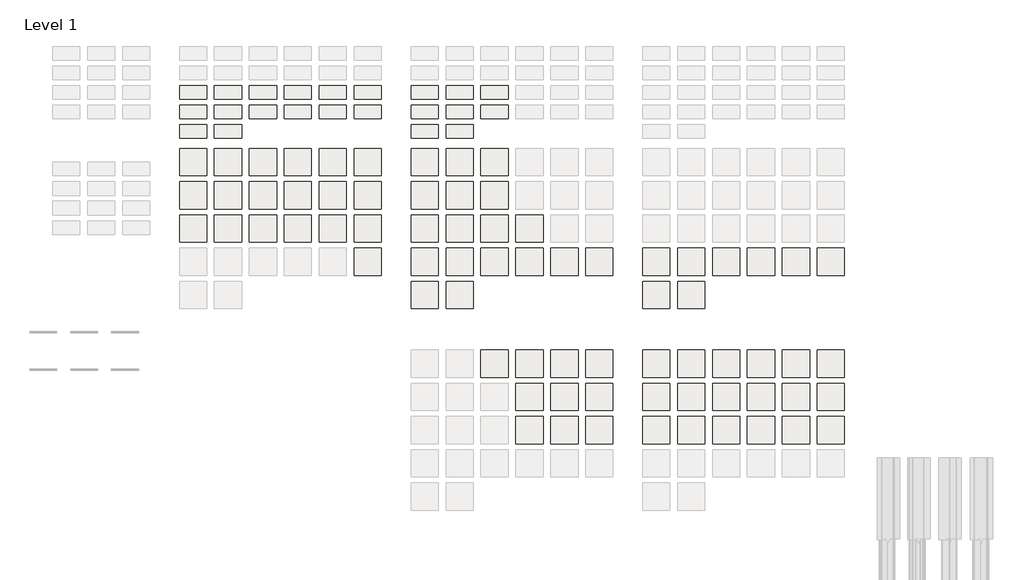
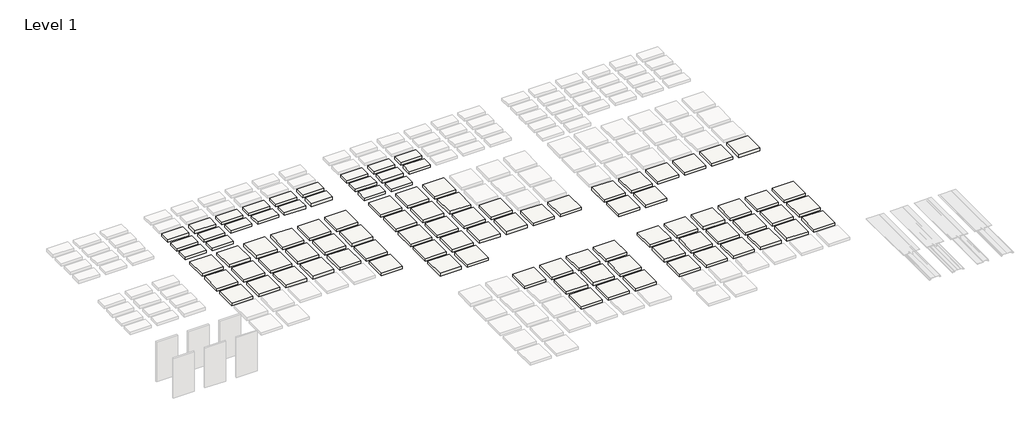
# One storey, part 2 of 3: 95 slabs.
"""IFC4 building model written with IfcOpenShell, lengths in millimetres."""

from ifc_helpers import new_model, si_unit, frame, origin, place, context, project, spatial, polyline, outline, extrude, element, save

model = new_model("IFC4")

# Units and contexts
model_context = context("Model", 3, world=origin())
ifc_project = project(units=[si_unit("LENGTHUNIT", "METRE", prefix="MILLI")], contexts=[model_context])

# Site, building, storey
site = spatial("IfcSite", under=ifc_project)
building = spatial("IfcBuilding", under=site)
storey = spatial("IfcBuildingStorey", under=building, Name="Level 1", Elevation=19.05)

# Slabs
placement = place(None, origin())
element("IfcSlab", 1, ObjectType="AEP Span Material Sample", at=placement, inside=storey, context=model_context, shape_type="SweptSolid", body=[
    extrude(outline(polyline([(857.9412041, 7451.3021167), (248.3412041, 7451.3021167), (248.3412041, 7756.1021167), (857.9412041, 7756.1021167), (857.9412041, 7451.3021167)])), frame((0.0, 0.0, -60.325), z_axis=(0.0, 0.0, 1.0), x_axis=(1.0, 0.0, 0.0)), (0.0, 0.0, 1.0), 79.375),
])
element("IfcSlab", 2, ObjectType="AEP Span Material Sample", at=placement, inside=storey, context=model_context, shape_type="SweptSolid", body=[
    extrude(outline(polyline([(1638.9912041, 7451.3021167), (1029.3912041, 7451.3021167), (1029.3912041, 7756.1021167), (1638.9912041, 7756.1021167), (1638.9912041, 7451.3021167)])), frame((0.0, 0.0, -60.325), z_axis=(0.0, 0.0, 1.0), x_axis=(1.0, 0.0, 0.0)), (0.0, 0.0, 1.0), 79.375),
])
element("IfcSlab", 3, ObjectType="AEP Span Material Sample", at=placement, inside=storey, context=model_context, shape_type="SweptSolid", body=[
    extrude(outline(polyline([(2420.0412041, 7451.3021167), (1810.4412041, 7451.3021167), (1810.4412041, 7756.1021167), (2420.0412041, 7756.1021167), (2420.0412041, 7451.3021167)])), frame((0.0, 0.0, -60.325), z_axis=(0.0, 0.0, 1.0), x_axis=(1.0, 0.0, 0.0)), (0.0, 0.0, 1.0), 79.375),
])
element("IfcSlab", 4, ObjectType="AEP Span Material Sample", at=placement, inside=storey, context=model_context, shape_type="SweptSolid", body=[
    extrude(outline(polyline([(3201.0912041, 7451.3021167), (2591.4912041, 7451.3021167), (2591.4912041, 7756.1021167), (3201.0912041, 7756.1021167), (3201.0912041, 7451.3021167)])), frame((0.0, 0.0, -60.325), z_axis=(0.0, 0.0, 1.0), x_axis=(1.0, 0.0, 0.0)), (0.0, 0.0, 1.0), 79.375),
])
element("IfcSlab", 5, ObjectType="AEP Span Material Sample", at=placement, inside=storey, context=model_context, shape_type="SweptSolid", body=[
    extrude(outline(polyline([(3982.1412041, 7451.3021167), (3372.5412041, 7451.3021167), (3372.5412041, 7756.1021167), (3982.1412041, 7756.1021167), (3982.1412041, 7451.3021167)])), frame((0.0, 0.0, -60.325), z_axis=(0.0, 0.0, 1.0), x_axis=(1.0, 0.0, 0.0)), (0.0, 0.0, 1.0), 79.375),
])
element("IfcSlab", 6, ObjectType="AEP Span Material Sample", at=placement, inside=storey, context=model_context, shape_type="SweptSolid", body=[
    extrude(outline(polyline([(4763.1912041, 7451.3021167), (4153.5912041, 7451.3021167), (4153.5912041, 7756.1021167), (4763.1912041, 7756.1021167), (4763.1912041, 7451.3021167)])), frame((0.0, 0.0, -60.325), z_axis=(0.0, 0.0, 1.0), x_axis=(1.0, 0.0, 0.0)), (0.0, 0.0, 1.0), 79.375),
])
element("IfcSlab", 7, ObjectType="AEP Span Material Sample", at=placement, inside=storey, context=model_context, shape_type="SweptSolid", body=[
    extrude(outline(polyline([(857.9412041, 7013.1521167), (248.3412041, 7013.1521167), (248.3412041, 7317.9521167), (857.9412041, 7317.9521167), (857.9412041, 7013.1521167)])), frame((0.0, 0.0, -60.325), z_axis=(0.0, 0.0, 1.0), x_axis=(1.0, 0.0, 0.0)), (0.0, 0.0, 1.0), 79.375),
])
element("IfcSlab", 8, ObjectType="AEP Span Material Sample", at=placement, inside=storey, context=model_context, shape_type="SweptSolid", body=[
    extrude(outline(polyline([(1638.9912041, 7013.1521167), (1029.3912041, 7013.1521167), (1029.3912041, 7317.9521167), (1638.9912041, 7317.9521167), (1638.9912041, 7013.1521167)])), frame((0.0, 0.0, -60.325), z_axis=(0.0, 0.0, 1.0), x_axis=(1.0, 0.0, 0.0)), (0.0, 0.0, 1.0), 79.375),
])
element("IfcSlab", 9, ObjectType="AEP Span Material Sample", at=placement, inside=storey, context=model_context, shape_type="SweptSolid", body=[
    extrude(outline(polyline([(2420.0412041, 7013.1521167), (1810.4412041, 7013.1521167), (1810.4412041, 7317.9521167), (2420.0412041, 7317.9521167), (2420.0412041, 7013.1521167)])), frame((0.0, 0.0, -60.325), z_axis=(0.0, 0.0, 1.0), x_axis=(1.0, 0.0, 0.0)), (0.0, 0.0, 1.0), 79.375),
])
element("IfcSlab", 10, ObjectType="AEP Span Material Sample", at=placement, inside=storey, context=model_context, shape_type="SweptSolid", body=[
    extrude(outline(polyline([(3201.0912041, 7013.1521167), (2591.4912041, 7013.1521167), (2591.4912041, 7317.9521167), (3201.0912041, 7317.9521167), (3201.0912041, 7013.1521167)])), frame((0.0, 0.0, -60.325), z_axis=(0.0, 0.0, 1.0), x_axis=(1.0, 0.0, 0.0)), (0.0, 0.0, 1.0), 79.375),
])
element("IfcSlab", 11, ObjectType="AEP Span Material Sample", at=placement, inside=storey, context=model_context, shape_type="SweptSolid", body=[
    extrude(outline(polyline([(3982.1412041, 7013.1521167), (3372.5412041, 7013.1521167), (3372.5412041, 7317.9521167), (3982.1412041, 7317.9521167), (3982.1412041, 7013.1521167)])), frame((0.0, 0.0, -60.325), z_axis=(0.0, 0.0, 1.0), x_axis=(1.0, 0.0, 0.0)), (0.0, 0.0, 1.0), 79.375),
])
element("IfcSlab", 12, ObjectType="AEP Span Material Sample", at=placement, inside=storey, context=model_context, shape_type="SweptSolid", body=[
    extrude(outline(polyline([(4763.1912041, 7013.1521167), (4153.5912041, 7013.1521167), (4153.5912041, 7317.9521167), (4763.1912041, 7317.9521167), (4763.1912041, 7013.1521167)])), frame((0.0, 0.0, -60.325), z_axis=(0.0, 0.0, 1.0), x_axis=(1.0, 0.0, 0.0)), (0.0, 0.0, 1.0), 79.375),
])
element("IfcSlab", 13, ObjectType="AEP Span Material Sample", at=placement, inside=storey, context=model_context, shape_type="SweptSolid", body=[
    extrude(outline(polyline([(857.9412041, 6575.0021167), (248.3412041, 6575.0021167), (248.3412041, 6879.8021167), (857.9412041, 6879.8021167), (857.9412041, 6575.0021167)])), frame((0.0, 0.0, -60.325), z_axis=(0.0, 0.0, 1.0), x_axis=(1.0, 0.0, 0.0)), (0.0, 0.0, 1.0), 79.375),
])
element("IfcSlab", 14, ObjectType="AEP Span Material Sample", at=placement, inside=storey, context=model_context, shape_type="SweptSolid", body=[
    extrude(outline(polyline([(1638.9912041, 6575.0021167), (1029.3912041, 6575.0021167), (1029.3912041, 6879.8021167), (1638.9912041, 6879.8021167), (1638.9912041, 6575.0021167)])), frame((0.0, 0.0, -60.325), z_axis=(0.0, 0.0, 1.0), x_axis=(1.0, 0.0, 0.0)), (0.0, 0.0, 1.0), 79.375),
])
element("IfcSlab", 15, ObjectType="AEP Span Material Sample", at=placement, inside=storey, context=model_context, shape_type="SweptSolid", body=[
    extrude(outline(polyline([(6040.5423483, 7451.3021167), (5430.9423483, 7451.3021167), (5430.9423483, 7756.1021167), (6040.5423483, 7756.1021167), (6040.5423483, 7451.3021167)])), frame((0.0, 0.0, -60.325), z_axis=(0.0, 0.0, 1.0), x_axis=(1.0, 0.0, 0.0)), (0.0, 0.0, 1.0), 79.375),
])
element("IfcSlab", 16, ObjectType="AEP Span Material Sample", at=placement, inside=storey, context=model_context, shape_type="SweptSolid", body=[
    extrude(outline(polyline([(6821.5923483, 7451.3021167), (6211.9923483, 7451.3021167), (6211.9923483, 7756.1021167), (6821.5923483, 7756.1021167), (6821.5923483, 7451.3021167)])), frame((0.0, 0.0, -60.325), z_axis=(0.0, 0.0, 1.0), x_axis=(1.0, 0.0, 0.0)), (0.0, 0.0, 1.0), 79.375),
])
element("IfcSlab", 17, ObjectType="AEP Span Material Sample", at=placement, inside=storey, context=model_context, shape_type="SweptSolid", body=[
    extrude(outline(polyline([(7602.6423483, 7451.3021167), (6993.0423483, 7451.3021167), (6993.0423483, 7756.1021167), (7602.6423483, 7756.1021167), (7602.6423483, 7451.3021167)])), frame((0.0, 0.0, -60.325), z_axis=(0.0, 0.0, 1.0), x_axis=(1.0, 0.0, 0.0)), (0.0, 0.0, 1.0), 79.375),
])
element("IfcSlab", 18, ObjectType="AEP Span Material Sample", at=placement, inside=storey, context=model_context, shape_type="SweptSolid", body=[
    extrude(outline(polyline([(6040.5423483, 7013.1521167), (5430.9423483, 7013.1521167), (5430.9423483, 7317.9521167), (6040.5423483, 7317.9521167), (6040.5423483, 7013.1521167)])), frame((0.0, 0.0, -60.325), z_axis=(0.0, 0.0, 1.0), x_axis=(1.0, 0.0, 0.0)), (0.0, 0.0, 1.0), 79.375),
])
element("IfcSlab", 19, ObjectType="AEP Span Material Sample", at=placement, inside=storey, context=model_context, shape_type="SweptSolid", body=[
    extrude(outline(polyline([(6821.5923483, 7013.1521167), (6211.9923483, 7013.1521167), (6211.9923483, 7317.9521167), (6821.5923483, 7317.9521167), (6821.5923483, 7013.1521167)])), frame((0.0, 0.0, -60.325), z_axis=(0.0, 0.0, 1.0), x_axis=(1.0, 0.0, 0.0)), (0.0, 0.0, 1.0), 79.375),
])
element("IfcSlab", 20, ObjectType="AEP Span Material Sample", at=placement, inside=storey, context=model_context, shape_type="SweptSolid", body=[
    extrude(outline(polyline([(7602.6423483, 7013.1521167), (6993.0423483, 7013.1521167), (6993.0423483, 7317.9521167), (7602.6423483, 7317.9521167), (7602.6423483, 7013.1521167)])), frame((0.0, 0.0, -60.325), z_axis=(0.0, 0.0, 1.0), x_axis=(1.0, 0.0, 0.0)), (0.0, 0.0, 1.0), 79.375),
])
element("IfcSlab", 21, ObjectType="AEP Span Material Sample", at=placement, inside=storey, context=model_context, shape_type="SweptSolid", body=[
    extrude(outline(polyline([(6040.5423483, 6575.0021167), (5430.9423483, 6575.0021167), (5430.9423483, 6879.8021167), (6040.5423483, 6879.8021167), (6040.5423483, 6575.0021167)])), frame((0.0, 0.0, -60.325), z_axis=(0.0, 0.0, 1.0), x_axis=(1.0, 0.0, 0.0)), (0.0, 0.0, 1.0), 79.375),
])
element("IfcSlab", 22, ObjectType="AEP Span Material Sample", at=placement, inside=storey, context=model_context, shape_type="SweptSolid", body=[
    extrude(outline(polyline([(6821.5923483, 6575.0021167), (6211.9923483, 6575.0021167), (6211.9923483, 6879.8021167), (6821.5923483, 6879.8021167), (6821.5923483, 6575.0021167)])), frame((0.0, 0.0, -60.325), z_axis=(0.0, 0.0, 1.0), x_axis=(1.0, 0.0, 0.0)), (0.0, 0.0, 1.0), 79.375),
])
element("IfcSlab", 23, ObjectType="AEP Span Material Sample", at=placement, inside=storey, context=model_context, shape_type="SweptSolid", body=[
    extrude(outline(polyline([(857.9412041, 5736.8021167), (248.3412041, 5736.8021167), (248.3412041, 6346.4021167), (857.9412041, 6346.4021167), (857.9412041, 5736.8021167)])), frame((0.0, 0.0, -60.325), z_axis=(0.0, 0.0, 1.0), x_axis=(1.0, 0.0, 0.0)), (0.0, 0.0, 1.0), 79.375),
])
element("IfcSlab", 24, ObjectType="AEP Span Material Sample", at=placement, inside=storey, context=model_context, shape_type="SweptSolid", body=[
    extrude(outline(polyline([(1638.9912041, 5736.8021167), (1029.3912041, 5736.8021167), (1029.3912041, 6346.4021167), (1638.9912041, 6346.4021167), (1638.9912041, 5736.8021167)])), frame((0.0, 0.0, -60.325), z_axis=(0.0, 0.0, 1.0), x_axis=(1.0, 0.0, 0.0)), (0.0, 0.0, 1.0), 79.375),
])
element("IfcSlab", 25, ObjectType="AEP Span Material Sample", at=placement, inside=storey, context=model_context, shape_type="SweptSolid", body=[
    extrude(outline(polyline([(2420.0412041, 5736.8021167), (1810.4412041, 5736.8021167), (1810.4412041, 6346.4021167), (2420.0412041, 6346.4021167), (2420.0412041, 5736.8021167)])), frame((0.0, 0.0, -60.325), z_axis=(0.0, 0.0, 1.0), x_axis=(1.0, 0.0, 0.0)), (0.0, 0.0, 1.0), 79.375),
])
element("IfcSlab", 26, ObjectType="AEP Span Material Sample", at=placement, inside=storey, context=model_context, shape_type="SweptSolid", body=[
    extrude(outline(polyline([(3201.0912041, 5736.8021167), (2591.4912041, 5736.8021167), (2591.4912041, 6346.4021167), (3201.0912041, 6346.4021167), (3201.0912041, 5736.8021167)])), frame((0.0, 0.0, -60.325), z_axis=(0.0, 0.0, 1.0), x_axis=(1.0, 0.0, 0.0)), (0.0, 0.0, 1.0), 79.375),
])
element("IfcSlab", 27, ObjectType="AEP Span Material Sample", at=placement, inside=storey, context=model_context, shape_type="SweptSolid", body=[
    extrude(outline(polyline([(3982.1412041, 5736.8021167), (3372.5412041, 5736.8021167), (3372.5412041, 6346.4021167), (3982.1412041, 6346.4021167), (3982.1412041, 5736.8021167)])), frame((0.0, 0.0, -60.325), z_axis=(0.0, 0.0, 1.0), x_axis=(1.0, 0.0, 0.0)), (0.0, 0.0, 1.0), 79.375),
])
element("IfcSlab", 28, ObjectType="AEP Span Material Sample", at=placement, inside=storey, context=model_context, shape_type="SweptSolid", body=[
    extrude(outline(polyline([(4763.1912041, 5736.8021167), (4153.5912041, 5736.8021167), (4153.5912041, 6346.4021167), (4763.1912041, 6346.4021167), (4763.1912041, 5736.8021167)])), frame((0.0, 0.0, -60.325), z_axis=(0.0, 0.0, 1.0), x_axis=(1.0, 0.0, 0.0)), (0.0, 0.0, 1.0), 79.375),
])
element("IfcSlab", 29, ObjectType="AEP Span Material Sample", at=placement, inside=storey, context=model_context, shape_type="SweptSolid", body=[
    extrude(outline(polyline([(857.9412041, 4993.8521167), (248.3412041, 4993.8521167), (248.3412041, 5603.4521167), (857.9412041, 5603.4521167), (857.9412041, 4993.8521167)])), frame((0.0, 0.0, -60.325), z_axis=(0.0, 0.0, 1.0), x_axis=(1.0, 0.0, 0.0)), (0.0, 0.0, 1.0), 79.375),
])
element("IfcSlab", 30, ObjectType="AEP Span Material Sample", at=placement, inside=storey, context=model_context, shape_type="SweptSolid", body=[
    extrude(outline(polyline([(1638.9912041, 4993.8521167), (1029.3912041, 4993.8521167), (1029.3912041, 5603.4521167), (1638.9912041, 5603.4521167), (1638.9912041, 4993.8521167)])), frame((0.0, 0.0, -60.325), z_axis=(0.0, 0.0, 1.0), x_axis=(1.0, 0.0, 0.0)), (0.0, 0.0, 1.0), 79.375),
])
element("IfcSlab", 31, ObjectType="AEP Span Material Sample", at=placement, inside=storey, context=model_context, shape_type="SweptSolid", body=[
    extrude(outline(polyline([(2420.0412041, 4993.8521167), (1810.4412041, 4993.8521167), (1810.4412041, 5603.4521167), (2420.0412041, 5603.4521167), (2420.0412041, 4993.8521167)])), frame((0.0, 0.0, -60.325), z_axis=(0.0, 0.0, 1.0), x_axis=(1.0, 0.0, 0.0)), (0.0, 0.0, 1.0), 79.375),
])
element("IfcSlab", 32, ObjectType="AEP Span Material Sample", at=placement, inside=storey, context=model_context, shape_type="SweptSolid", body=[
    extrude(outline(polyline([(3201.0912041, 4993.8521167), (2591.4912041, 4993.8521167), (2591.4912041, 5603.4521167), (3201.0912041, 5603.4521167), (3201.0912041, 4993.8521167)])), frame((0.0, 0.0, -60.325), z_axis=(0.0, 0.0, 1.0), x_axis=(1.0, 0.0, 0.0)), (0.0, 0.0, 1.0), 79.375),
])
element("IfcSlab", 33, ObjectType="AEP Span Material Sample", at=placement, inside=storey, context=model_context, shape_type="SweptSolid", body=[
    extrude(outline(polyline([(3982.1412041, 4993.8521167), (3372.5412041, 4993.8521167), (3372.5412041, 5603.4521167), (3982.1412041, 5603.4521167), (3982.1412041, 4993.8521167)])), frame((0.0, 0.0, -60.325), z_axis=(0.0, 0.0, 1.0), x_axis=(1.0, 0.0, 0.0)), (0.0, 0.0, 1.0), 79.375),
])
element("IfcSlab", 34, ObjectType="AEP Span Material Sample", at=placement, inside=storey, context=model_context, shape_type="SweptSolid", body=[
    extrude(outline(polyline([(4763.1912041, 4993.8521167), (4153.5912041, 4993.8521167), (4153.5912041, 5603.4521167), (4763.1912041, 5603.4521167), (4763.1912041, 4993.8521167)])), frame((0.0, 0.0, -60.325), z_axis=(0.0, 0.0, 1.0), x_axis=(1.0, 0.0, 0.0)), (0.0, 0.0, 1.0), 79.375),
])
element("IfcSlab", 35, ObjectType="AEP Span Material Sample", at=placement, inside=storey, context=model_context, shape_type="SweptSolid", body=[
    extrude(outline(polyline([(857.9412041, 4250.9021167), (248.3412041, 4250.9021167), (248.3412041, 4860.5021167), (857.9412041, 4860.5021167), (857.9412041, 4250.9021167)])), frame((0.0, 0.0, -60.325), z_axis=(0.0, 0.0, 1.0), x_axis=(1.0, 0.0, 0.0)), (0.0, 0.0, 1.0), 79.375),
])
element("IfcSlab", 36, ObjectType="AEP Span Material Sample", at=placement, inside=storey, context=model_context, shape_type="SweptSolid", body=[
    extrude(outline(polyline([(1638.9912041, 4250.9021167), (1029.3912041, 4250.9021167), (1029.3912041, 4860.5021167), (1638.9912041, 4860.5021167), (1638.9912041, 4250.9021167)])), frame((0.0, 0.0, -60.325), z_axis=(0.0, 0.0, 1.0), x_axis=(1.0, 0.0, 0.0)), (0.0, 0.0, 1.0), 79.375),
])
element("IfcSlab", 37, ObjectType="AEP Span Material Sample", at=placement, inside=storey, context=model_context, shape_type="SweptSolid", body=[
    extrude(outline(polyline([(2420.0412041, 4250.9021167), (1810.4412041, 4250.9021167), (1810.4412041, 4860.5021167), (2420.0412041, 4860.5021167), (2420.0412041, 4250.9021167)])), frame((0.0, 0.0, -60.325), z_axis=(0.0, 0.0, 1.0), x_axis=(1.0, 0.0, 0.0)), (0.0, 0.0, 1.0), 79.375),
])
element("IfcSlab", 38, ObjectType="AEP Span Material Sample", at=placement, inside=storey, context=model_context, shape_type="SweptSolid", body=[
    extrude(outline(polyline([(3201.0912041, 4250.9021167), (2591.4912041, 4250.9021167), (2591.4912041, 4860.5021167), (3201.0912041, 4860.5021167), (3201.0912041, 4250.9021167)])), frame((0.0, 0.0, -60.325), z_axis=(0.0, 0.0, 1.0), x_axis=(1.0, 0.0, 0.0)), (0.0, 0.0, 1.0), 79.375),
])
element("IfcSlab", 39, ObjectType="AEP Span Material Sample", at=placement, inside=storey, context=model_context, shape_type="SweptSolid", body=[
    extrude(outline(polyline([(3982.1412041, 4250.9021167), (3372.5412041, 4250.9021167), (3372.5412041, 4860.5021167), (3982.1412041, 4860.5021167), (3982.1412041, 4250.9021167)])), frame((0.0, 0.0, -60.325), z_axis=(0.0, 0.0, 1.0), x_axis=(1.0, 0.0, 0.0)), (0.0, 0.0, 1.0), 79.375),
])
element("IfcSlab", 40, ObjectType="AEP Span Material Sample", at=placement, inside=storey, context=model_context, shape_type="SweptSolid", body=[
    extrude(outline(polyline([(4763.1912041, 4250.9021167), (4153.5912041, 4250.9021167), (4153.5912041, 4860.5021167), (4763.1912041, 4860.5021167), (4763.1912041, 4250.9021167)])), frame((0.0, 0.0, -60.325), z_axis=(0.0, 0.0, 1.0), x_axis=(1.0, 0.0, 0.0)), (0.0, 0.0, 1.0), 79.375),
])
element("IfcSlab", 41, ObjectType="AEP Span Material Sample", at=placement, inside=storey, context=model_context, shape_type="SweptSolid", body=[
    extrude(outline(polyline([(4763.1912041, 3507.9521167), (4153.5912041, 3507.9521167), (4153.5912041, 4117.5521167), (4763.1912041, 4117.5521167), (4763.1912041, 3507.9521167)])), frame((0.0, 0.0, -60.325), z_axis=(0.0, 0.0, 1.0), x_axis=(1.0, 0.0, 0.0)), (0.0, 0.0, 1.0), 79.375),
])
element("IfcSlab", 42, ObjectType="AEP Span Material Sample", at=placement, inside=storey, context=model_context, shape_type="SweptSolid", body=[
    extrude(outline(polyline([(6040.5423483, 5736.8021167), (5430.9423483, 5736.8021167), (5430.9423483, 6346.4021167), (6040.5423483, 6346.4021167), (6040.5423483, 5736.8021167)])), frame((0.0, 0.0, -60.325), z_axis=(0.0, 0.0, 1.0), x_axis=(1.0, 0.0, 0.0)), (0.0, 0.0, 1.0), 79.375),
])
element("IfcSlab", 43, ObjectType="AEP Span Material Sample", at=placement, inside=storey, context=model_context, shape_type="SweptSolid", body=[
    extrude(outline(polyline([(6821.5923483, 5736.8021167), (6211.9923483, 5736.8021167), (6211.9923483, 6346.4021167), (6821.5923483, 6346.4021167), (6821.5923483, 5736.8021167)])), frame((0.0, 0.0, -60.325), z_axis=(0.0, 0.0, 1.0), x_axis=(1.0, 0.0, 0.0)), (0.0, 0.0, 1.0), 79.375),
])
element("IfcSlab", 44, ObjectType="AEP Span Material Sample", at=placement, inside=storey, context=model_context, shape_type="SweptSolid", body=[
    extrude(outline(polyline([(7602.6423483, 5736.8021167), (6993.0423483, 5736.8021167), (6993.0423483, 6346.4021167), (7602.6423483, 6346.4021167), (7602.6423483, 5736.8021167)])), frame((0.0, 0.0, -60.325), z_axis=(0.0, 0.0, 1.0), x_axis=(1.0, 0.0, 0.0)), (0.0, 0.0, 1.0), 79.375),
])
element("IfcSlab", 45, ObjectType="AEP Span Material Sample", at=placement, inside=storey, context=model_context, shape_type="SweptSolid", body=[
    extrude(outline(polyline([(6040.5423483, 4993.8521167), (5430.9423483, 4993.8521167), (5430.9423483, 5603.4521167), (6040.5423483, 5603.4521167), (6040.5423483, 4993.8521167)])), frame((0.0, 0.0, -60.325), z_axis=(0.0, 0.0, 1.0), x_axis=(1.0, 0.0, 0.0)), (0.0, 0.0, 1.0), 79.375),
])
element("IfcSlab", 46, ObjectType="AEP Span Material Sample", at=placement, inside=storey, context=model_context, shape_type="SweptSolid", body=[
    extrude(outline(polyline([(6821.5923483, 4993.8521167), (6211.9923483, 4993.8521167), (6211.9923483, 5603.4521167), (6821.5923483, 5603.4521167), (6821.5923483, 4993.8521167)])), frame((0.0, 0.0, -60.325), z_axis=(0.0, 0.0, 1.0), x_axis=(1.0, 0.0, 0.0)), (0.0, 0.0, 1.0), 79.375),
])
element("IfcSlab", 47, ObjectType="AEP Span Material Sample", at=placement, inside=storey, context=model_context, shape_type="SweptSolid", body=[
    extrude(outline(polyline([(7602.6423483, 4993.8521167), (6993.0423483, 4993.8521167), (6993.0423483, 5603.4521167), (7602.6423483, 5603.4521167), (7602.6423483, 4993.8521167)])), frame((0.0, 0.0, -60.325), z_axis=(0.0, 0.0, 1.0), x_axis=(1.0, 0.0, 0.0)), (0.0, 0.0, 1.0), 79.375),
])
element("IfcSlab", 48, ObjectType="AEP Span Material Sample", at=placement, inside=storey, context=model_context, shape_type="SweptSolid", body=[
    extrude(outline(polyline([(6040.5423483, 4250.9021167), (5430.9423483, 4250.9021167), (5430.9423483, 4860.5021167), (6040.5423483, 4860.5021167), (6040.5423483, 4250.9021167)])), frame((0.0, 0.0, -60.325), z_axis=(0.0, 0.0, 1.0), x_axis=(1.0, 0.0, 0.0)), (0.0, 0.0, 1.0), 79.375),
])
element("IfcSlab", 49, ObjectType="AEP Span Material Sample", at=placement, inside=storey, context=model_context, shape_type="SweptSolid", body=[
    extrude(outline(polyline([(6821.5923483, 4250.9021167), (6211.9923483, 4250.9021167), (6211.9923483, 4860.5021167), (6821.5923483, 4860.5021167), (6821.5923483, 4250.9021167)])), frame((0.0, 0.0, -60.325), z_axis=(0.0, 0.0, 1.0), x_axis=(1.0, 0.0, 0.0)), (0.0, 0.0, 1.0), 79.375),
])
element("IfcSlab", 50, ObjectType="AEP Span Material Sample", at=placement, inside=storey, context=model_context, shape_type="SweptSolid", body=[
    extrude(outline(polyline([(7602.6423483, 4250.9021167), (6993.0423483, 4250.9021167), (6993.0423483, 4860.5021167), (7602.6423483, 4860.5021167), (7602.6423483, 4250.9021167)])), frame((0.0, 0.0, -60.325), z_axis=(0.0, 0.0, 1.0), x_axis=(1.0, 0.0, 0.0)), (0.0, 0.0, 1.0), 79.375),
])
element("IfcSlab", 51, ObjectType="AEP Span Material Sample", at=placement, inside=storey, context=model_context, shape_type="SweptSolid", body=[
    extrude(outline(polyline([(8383.6923483, 4250.9021167), (7774.0923483, 4250.9021167), (7774.0923483, 4860.5021167), (8383.6923483, 4860.5021167), (8383.6923483, 4250.9021167)])), frame((0.0, 0.0, -60.325), z_axis=(0.0, 0.0, 1.0), x_axis=(1.0, 0.0, 0.0)), (0.0, 0.0, 1.0), 79.375),
])
element("IfcSlab", 52, ObjectType="AEP Span Material Sample", at=placement, inside=storey, context=model_context, shape_type="SweptSolid", body=[
    extrude(outline(polyline([(6040.5423483, 3507.9521167), (5430.9423483, 3507.9521167), (5430.9423483, 4117.5521167), (6040.5423483, 4117.5521167), (6040.5423483, 3507.9521167)])), frame((0.0, 0.0, -60.325), z_axis=(0.0, 0.0, 1.0), x_axis=(1.0, 0.0, 0.0)), (0.0, 0.0, 1.0), 79.375),
])
element("IfcSlab", 53, ObjectType="AEP Span Material Sample", at=placement, inside=storey, context=model_context, shape_type="SweptSolid", body=[
    extrude(outline(polyline([(6821.5923483, 3507.9521167), (6211.9923483, 3507.9521167), (6211.9923483, 4117.5521167), (6821.5923483, 4117.5521167), (6821.5923483, 3507.9521167)])), frame((0.0, 0.0, -60.325), z_axis=(0.0, 0.0, 1.0), x_axis=(1.0, 0.0, 0.0)), (0.0, 0.0, 1.0), 79.375),
])
element("IfcSlab", 54, ObjectType="AEP Span Material Sample", at=placement, inside=storey, context=model_context, shape_type="SweptSolid", body=[
    extrude(outline(polyline([(7602.6423483, 3507.9521167), (6993.0423483, 3507.9521167), (6993.0423483, 4117.5521167), (7602.6423483, 4117.5521167), (7602.6423483, 3507.9521167)])), frame((0.0, 0.0, -60.325), z_axis=(0.0, 0.0, 1.0), x_axis=(1.0, 0.0, 0.0)), (0.0, 0.0, 1.0), 79.375),
])
element("IfcSlab", 55, ObjectType="AEP Span Material Sample", at=placement, inside=storey, context=model_context, shape_type="SweptSolid", body=[
    extrude(outline(polyline([(8383.6923483, 3507.9521167), (7774.0923483, 3507.9521167), (7774.0923483, 4117.5521167), (8383.6923483, 4117.5521167), (8383.6923483, 3507.9521167)])), frame((0.0, 0.0, -60.325), z_axis=(0.0, 0.0, 1.0), x_axis=(1.0, 0.0, 0.0)), (0.0, 0.0, 1.0), 79.375),
])
element("IfcSlab", 56, ObjectType="AEP Span Material Sample", at=placement, inside=storey, context=model_context, shape_type="SweptSolid", body=[
    extrude(outline(polyline([(9164.7423483, 3507.9521167), (8555.1423483, 3507.9521167), (8555.1423483, 4117.5521167), (9164.7423483, 4117.5521167), (9164.7423483, 3507.9521167)])), frame((0.0, 0.0, -60.325), z_axis=(0.0, 0.0, 1.0), x_axis=(1.0, 0.0, 0.0)), (0.0, 0.0, 1.0), 79.375),
])
element("IfcSlab", 57, ObjectType="AEP Span Material Sample", at=placement, inside=storey, context=model_context, shape_type="SweptSolid", body=[
    extrude(outline(polyline([(9945.7923483, 3507.9521167), (9336.1923483, 3507.9521167), (9336.1923483, 4117.5521167), (9945.7923483, 4117.5521167), (9945.7923483, 3507.9521167)])), frame((0.0, 0.0, -60.325), z_axis=(0.0, 0.0, 1.0), x_axis=(1.0, 0.0, 0.0)), (0.0, 0.0, 1.0), 79.375),
])
element("IfcSlab", 58, ObjectType="AEP Span Material Sample", at=placement, inside=storey, context=model_context, shape_type="SweptSolid", body=[
    extrude(outline(polyline([(6040.5423483, 2765.0021167), (5430.9423483, 2765.0021167), (5430.9423483, 3374.6021167), (6040.5423483, 3374.6021167), (6040.5423483, 2765.0021167)])), frame((0.0, 0.0, -60.325), z_axis=(0.0, 0.0, 1.0), x_axis=(1.0, 0.0, 0.0)), (0.0, 0.0, 1.0), 79.375),
])
element("IfcSlab", 59, ObjectType="AEP Span Material Sample", at=placement, inside=storey, context=model_context, shape_type="SweptSolid", body=[
    extrude(outline(polyline([(6821.5923483, 2765.0021167), (6211.9923483, 2765.0021167), (6211.9923483, 3374.6021167), (6821.5923483, 3374.6021167), (6821.5923483, 2765.0021167)])), frame((0.0, 0.0, -60.325), z_axis=(0.0, 0.0, 1.0), x_axis=(1.0, 0.0, 0.0)), (0.0, 0.0, 1.0), 79.375),
])
element("IfcSlab", 60, ObjectType="AEP Span Material Sample", at=placement, inside=storey, context=model_context, shape_type="SweptSolid", body=[
    extrude(outline(polyline([(11221.1412041, 3507.9521167), (10611.5412041, 3507.9521167), (10611.5412041, 4117.5521167), (11221.1412041, 4117.5521167), (11221.1412041, 3507.9521167)])), frame((0.0, 0.0, -60.325), z_axis=(0.0, 0.0, 1.0), x_axis=(1.0, 0.0, 0.0)), (0.0, 0.0, 1.0), 79.375),
])
element("IfcSlab", 61, ObjectType="AEP Span Material Sample", at=placement, inside=storey, context=model_context, shape_type="SweptSolid", body=[
    extrude(outline(polyline([(12002.1912041, 3507.9521167), (11392.5912041, 3507.9521167), (11392.5912041, 4117.5521167), (12002.1912041, 4117.5521167), (12002.1912041, 3507.9521167)])), frame((0.0, 0.0, -60.325), z_axis=(0.0, 0.0, 1.0), x_axis=(1.0, 0.0, 0.0)), (0.0, 0.0, 1.0), 79.375),
])
element("IfcSlab", 62, ObjectType="AEP Span Material Sample", at=placement, inside=storey, context=model_context, shape_type="SweptSolid", body=[
    extrude(outline(polyline([(12783.2412041, 3507.9521167), (12173.6412041, 3507.9521167), (12173.6412041, 4117.5521167), (12783.2412041, 4117.5521167), (12783.2412041, 3507.9521167)])), frame((0.0, 0.0, -60.325), z_axis=(0.0, 0.0, 1.0), x_axis=(1.0, 0.0, 0.0)), (0.0, 0.0, 1.0), 79.375),
])
element("IfcSlab", 63, ObjectType="AEP Span Material Sample", at=placement, inside=storey, context=model_context, shape_type="SweptSolid", body=[
    extrude(outline(polyline([(13564.2912041, 3507.9521167), (12954.6912041, 3507.9521167), (12954.6912041, 4117.5521167), (13564.2912041, 4117.5521167), (13564.2912041, 3507.9521167)])), frame((0.0, 0.0, -60.325), z_axis=(0.0, 0.0, 1.0), x_axis=(1.0, 0.0, 0.0)), (0.0, 0.0, 1.0), 79.375),
])
element("IfcSlab", 64, ObjectType="AEP Span Material Sample", at=placement, inside=storey, context=model_context, shape_type="SweptSolid", body=[
    extrude(outline(polyline([(14345.3412041, 3507.9521167), (13735.7412041, 3507.9521167), (13735.7412041, 4117.5521167), (14345.3412041, 4117.5521167), (14345.3412041, 3507.9521167)])), frame((0.0, 0.0, -60.325), z_axis=(0.0, 0.0, 1.0), x_axis=(1.0, 0.0, 0.0)), (0.0, 0.0, 1.0), 79.375),
])
element("IfcSlab", 65, ObjectType="AEP Span Material Sample", at=placement, inside=storey, context=model_context, shape_type="SweptSolid", body=[
    extrude(outline(polyline([(15126.3912041, 3507.9521167), (14516.7912041, 3507.9521167), (14516.7912041, 4117.5521167), (15126.3912041, 4117.5521167), (15126.3912041, 3507.9521167)])), frame((0.0, 0.0, -60.325), z_axis=(0.0, 0.0, 1.0), x_axis=(1.0, 0.0, 0.0)), (0.0, 0.0, 1.0), 79.375),
])
element("IfcSlab", 66, ObjectType="AEP Span Material Sample", at=placement, inside=storey, context=model_context, shape_type="SweptSolid", body=[
    extrude(outline(polyline([(11221.1412041, 2765.0021167), (10611.5412041, 2765.0021167), (10611.5412041, 3374.6021167), (11221.1412041, 3374.6021167), (11221.1412041, 2765.0021167)])), frame((0.0, 0.0, -60.325), z_axis=(0.0, 0.0, 1.0), x_axis=(1.0, 0.0, 0.0)), (0.0, 0.0, 1.0), 79.375),
])
element("IfcSlab", 67, ObjectType="AEP Span Material Sample", at=placement, inside=storey, context=model_context, shape_type="SweptSolid", body=[
    extrude(outline(polyline([(12002.1912041, 2765.0021167), (11392.5912041, 2765.0021167), (11392.5912041, 3374.6021167), (12002.1912041, 3374.6021167), (12002.1912041, 2765.0021167)])), frame((0.0, 0.0, -60.325), z_axis=(0.0, 0.0, 1.0), x_axis=(1.0, 0.0, 0.0)), (0.0, 0.0, 1.0), 79.375),
])
element("IfcSlab", 68, ObjectType="AEP Span Material Sample", at=placement, inside=storey, context=model_context, shape_type="SweptSolid", body=[
    extrude(outline(polyline([(11221.1412041, 1221.9521167), (10611.5412041, 1221.9521167), (10611.5412041, 1831.5521167), (11221.1412041, 1831.5521167), (11221.1412041, 1221.9521167)])), frame((0.0, 0.0, -60.325), z_axis=(0.0, 0.0, 1.0), x_axis=(1.0, 0.0, 0.0)), (0.0, 0.0, 1.0), 79.375),
])
element("IfcSlab", 69, ObjectType="AEP Span Material Sample", at=placement, inside=storey, context=model_context, shape_type="SweptSolid", body=[
    extrude(outline(polyline([(12002.1912041, 1221.9521167), (11392.5912041, 1221.9521167), (11392.5912041, 1831.5521167), (12002.1912041, 1831.5521167), (12002.1912041, 1221.9521167)])), frame((0.0, 0.0, -60.325), z_axis=(0.0, 0.0, 1.0), x_axis=(1.0, 0.0, 0.0)), (0.0, 0.0, 1.0), 79.375),
])
element("IfcSlab", 70, ObjectType="AEP Span Material Sample", at=placement, inside=storey, context=model_context, shape_type="SweptSolid", body=[
    extrude(outline(polyline([(12783.2412041, 1221.9521167), (12173.6412041, 1221.9521167), (12173.6412041, 1831.5521167), (12783.2412041, 1831.5521167), (12783.2412041, 1221.9521167)])), frame((0.0, 0.0, -60.325), z_axis=(0.0, 0.0, 1.0), x_axis=(1.0, 0.0, 0.0)), (0.0, 0.0, 1.0), 79.375),
])
element("IfcSlab", 71, ObjectType="AEP Span Material Sample", at=placement, inside=storey, context=model_context, shape_type="SweptSolid", body=[
    extrude(outline(polyline([(13564.2912041, 1221.9521167), (12954.6912041, 1221.9521167), (12954.6912041, 1831.5521167), (13564.2912041, 1831.5521167), (13564.2912041, 1221.9521167)])), frame((0.0, 0.0, -60.325), z_axis=(0.0, 0.0, 1.0), x_axis=(1.0, 0.0, 0.0)), (0.0, 0.0, 1.0), 79.375),
])
element("IfcSlab", 72, ObjectType="AEP Span Material Sample", at=placement, inside=storey, context=model_context, shape_type="SweptSolid", body=[
    extrude(outline(polyline([(14345.3412041, 1221.9521167), (13735.7412041, 1221.9521167), (13735.7412041, 1831.5521167), (14345.3412041, 1831.5521167), (14345.3412041, 1221.9521167)])), frame((0.0, 0.0, -60.325), z_axis=(0.0, 0.0, 1.0), x_axis=(1.0, 0.0, 0.0)), (0.0, 0.0, 1.0), 79.375),
])
element("IfcSlab", 73, ObjectType="AEP Span Material Sample", at=placement, inside=storey, context=model_context, shape_type="SweptSolid", body=[
    extrude(outline(polyline([(15126.3912041, 1221.9521167), (14516.7912041, 1221.9521167), (14516.7912041, 1831.5521167), (15126.3912041, 1831.5521167), (15126.3912041, 1221.9521167)])), frame((0.0, 0.0, -60.325), z_axis=(0.0, 0.0, 1.0), x_axis=(1.0, 0.0, 0.0)), (0.0, 0.0, 1.0), 79.375),
])
element("IfcSlab", 74, ObjectType="AEP Span Material Sample", at=placement, inside=storey, context=model_context, shape_type="SweptSolid", body=[
    extrude(outline(polyline([(11221.1412041, 479.0021167), (10611.5412041, 479.0021167), (10611.5412041, 1088.6021167), (11221.1412041, 1088.6021167), (11221.1412041, 479.0021167)])), frame((0.0, 0.0, -60.325), z_axis=(0.0, 0.0, 1.0), x_axis=(1.0, 0.0, 0.0)), (0.0, 0.0, 1.0), 79.375),
])
element("IfcSlab", 75, ObjectType="AEP Span Material Sample", at=placement, inside=storey, context=model_context, shape_type="SweptSolid", body=[
    extrude(outline(polyline([(12002.1912041, 479.0021167), (11392.5912041, 479.0021167), (11392.5912041, 1088.6021167), (12002.1912041, 1088.6021167), (12002.1912041, 479.0021167)])), frame((0.0, 0.0, -60.325), z_axis=(0.0, 0.0, 1.0), x_axis=(1.0, 0.0, 0.0)), (0.0, 0.0, 1.0), 79.375),
])
element("IfcSlab", 76, ObjectType="AEP Span Material Sample", at=placement, inside=storey, context=model_context, shape_type="SweptSolid", body=[
    extrude(outline(polyline([(12783.2412041, 479.0021167), (12173.6412041, 479.0021167), (12173.6412041, 1088.6021167), (12783.2412041, 1088.6021167), (12783.2412041, 479.0021167)])), frame((0.0, 0.0, -60.325), z_axis=(0.0, 0.0, 1.0), x_axis=(1.0, 0.0, 0.0)), (0.0, 0.0, 1.0), 79.375),
])
element("IfcSlab", 77, ObjectType="AEP Span Material Sample", at=placement, inside=storey, context=model_context, shape_type="SweptSolid", body=[
    extrude(outline(polyline([(13564.2912041, 479.0021167), (12954.6912041, 479.0021167), (12954.6912041, 1088.6021167), (13564.2912041, 1088.6021167), (13564.2912041, 479.0021167)])), frame((0.0, 0.0, -60.325), z_axis=(0.0, 0.0, 1.0), x_axis=(1.0, 0.0, 0.0)), (0.0, 0.0, 1.0), 79.375),
])
element("IfcSlab", 78, ObjectType="AEP Span Material Sample", at=placement, inside=storey, context=model_context, shape_type="SweptSolid", body=[
    extrude(outline(polyline([(14345.3412041, 479.0021167), (13735.7412041, 479.0021167), (13735.7412041, 1088.6021167), (14345.3412041, 1088.6021167), (14345.3412041, 479.0021167)])), frame((0.0, 0.0, -60.325), z_axis=(0.0, 0.0, 1.0), x_axis=(1.0, 0.0, 0.0)), (0.0, 0.0, 1.0), 79.375),
])
element("IfcSlab", 79, ObjectType="AEP Span Material Sample", at=placement, inside=storey, context=model_context, shape_type="SweptSolid", body=[
    extrude(outline(polyline([(15126.3912041, 479.0021167), (14516.7912041, 479.0021167), (14516.7912041, 1088.6021167), (15126.3912041, 1088.6021167), (15126.3912041, 479.0021167)])), frame((0.0, 0.0, -60.325), z_axis=(0.0, 0.0, 1.0), x_axis=(1.0, 0.0, 0.0)), (0.0, 0.0, 1.0), 79.375),
])
element("IfcSlab", 80, ObjectType="AEP Span Material Sample", at=placement, inside=storey, context=model_context, shape_type="SweptSolid", body=[
    extrude(outline(polyline([(11221.1412041, -263.9478833), (10611.5412041, -263.9478833), (10611.5412041, 345.6521167), (11221.1412041, 345.6521167), (11221.1412041, -263.9478833)])), frame((0.0, 0.0, -60.325), z_axis=(0.0, 0.0, 1.0), x_axis=(1.0, 0.0, 0.0)), (0.0, 0.0, 1.0), 79.375),
])
element("IfcSlab", 81, ObjectType="AEP Span Material Sample", at=placement, inside=storey, context=model_context, shape_type="SweptSolid", body=[
    extrude(outline(polyline([(12002.1912041, -263.9478833), (11392.5912041, -263.9478833), (11392.5912041, 345.6521167), (12002.1912041, 345.6521167), (12002.1912041, -263.9478833)])), frame((0.0, 0.0, -60.325), z_axis=(0.0, 0.0, 1.0), x_axis=(1.0, 0.0, 0.0)), (0.0, 0.0, 1.0), 79.375),
])
element("IfcSlab", 82, ObjectType="AEP Span Material Sample", at=placement, inside=storey, context=model_context, shape_type="SweptSolid", body=[
    extrude(outline(polyline([(12783.2412041, -263.9478833), (12173.6412041, -263.9478833), (12173.6412041, 345.6521167), (12783.2412041, 345.6521167), (12783.2412041, -263.9478833)])), frame((0.0, 0.0, -60.325), z_axis=(0.0, 0.0, 1.0), x_axis=(1.0, 0.0, 0.0)), (0.0, 0.0, 1.0), 79.375),
])
element("IfcSlab", 83, ObjectType="AEP Span Material Sample", at=placement, inside=storey, context=model_context, shape_type="SweptSolid", body=[
    extrude(outline(polyline([(13564.2912041, -263.9478833), (12954.6912041, -263.9478833), (12954.6912041, 345.6521167), (13564.2912041, 345.6521167), (13564.2912041, -263.9478833)])), frame((0.0, 0.0, -60.325), z_axis=(0.0, 0.0, 1.0), x_axis=(1.0, 0.0, 0.0)), (0.0, 0.0, 1.0), 79.375),
])
element("IfcSlab", 84, ObjectType="AEP Span Material Sample", at=placement, inside=storey, context=model_context, shape_type="SweptSolid", body=[
    extrude(outline(polyline([(14345.3412041, -263.9478833), (13735.7412041, -263.9478833), (13735.7412041, 345.6521167), (14345.3412041, 345.6521167), (14345.3412041, -263.9478833)])), frame((0.0, 0.0, -60.325), z_axis=(0.0, 0.0, 1.0), x_axis=(1.0, 0.0, 0.0)), (0.0, 0.0, 1.0), 79.375),
])
element("IfcSlab", 85, ObjectType="AEP Span Material Sample", at=placement, inside=storey, context=model_context, shape_type="SweptSolid", body=[
    extrude(outline(polyline([(15126.3912041, -263.9478833), (14516.7912041, -263.9478833), (14516.7912041, 345.6521167), (15126.3912041, 345.6521167), (15126.3912041, -263.9478833)])), frame((0.0, 0.0, -60.325), z_axis=(0.0, 0.0, 1.0), x_axis=(1.0, 0.0, 0.0)), (0.0, 0.0, 1.0), 79.375),
])
element("IfcSlab", 86, ObjectType="AEP Span Material Sample", at=placement, inside=storey, context=model_context, shape_type="SweptSolid", body=[
    extrude(outline(polyline([(7602.6423483, 1221.9521167), (6993.0423483, 1221.9521167), (6993.0423483, 1831.5521167), (7602.6423483, 1831.5521167), (7602.6423483, 1221.9521167)])), frame((0.0, 0.0, -60.325), z_axis=(0.0, 0.0, 1.0), x_axis=(1.0, 0.0, 0.0)), (0.0, 0.0, 1.0), 79.375),
])
element("IfcSlab", 87, ObjectType="AEP Span Material Sample", at=placement, inside=storey, context=model_context, shape_type="SweptSolid", body=[
    extrude(outline(polyline([(8383.6923483, 1221.9521167), (7774.0923483, 1221.9521167), (7774.0923483, 1831.5521167), (8383.6923483, 1831.5521167), (8383.6923483, 1221.9521167)])), frame((0.0, 0.0, -60.325), z_axis=(0.0, 0.0, 1.0), x_axis=(1.0, 0.0, 0.0)), (0.0, 0.0, 1.0), 79.375),
])
element("IfcSlab", 88, ObjectType="AEP Span Material Sample", at=placement, inside=storey, context=model_context, shape_type="SweptSolid", body=[
    extrude(outline(polyline([(9164.7423483, 1221.9521167), (8555.1423483, 1221.9521167), (8555.1423483, 1831.5521167), (9164.7423483, 1831.5521167), (9164.7423483, 1221.9521167)])), frame((0.0, 0.0, -60.325), z_axis=(0.0, 0.0, 1.0), x_axis=(1.0, 0.0, 0.0)), (0.0, 0.0, 1.0), 79.375),
])
element("IfcSlab", 89, ObjectType="AEP Span Material Sample", at=placement, inside=storey, context=model_context, shape_type="SweptSolid", body=[
    extrude(outline(polyline([(9945.7923483, 1221.9521167), (9336.1923483, 1221.9521167), (9336.1923483, 1831.5521167), (9945.7923483, 1831.5521167), (9945.7923483, 1221.9521167)])), frame((0.0, 0.0, -60.325), z_axis=(0.0, 0.0, 1.0), x_axis=(1.0, 0.0, 0.0)), (0.0, 0.0, 1.0), 79.375),
])
element("IfcSlab", 90, ObjectType="AEP Span Material Sample", at=placement, inside=storey, context=model_context, shape_type="SweptSolid", body=[
    extrude(outline(polyline([(8383.6923483, 479.0021167), (7774.0923483, 479.0021167), (7774.0923483, 1088.6021167), (8383.6923483, 1088.6021167), (8383.6923483, 479.0021167)])), frame((0.0, 0.0, -60.325), z_axis=(0.0, 0.0, 1.0), x_axis=(1.0, 0.0, 0.0)), (0.0, 0.0, 1.0), 79.375),
])
element("IfcSlab", 91, ObjectType="AEP Span Material Sample", at=placement, inside=storey, context=model_context, shape_type="SweptSolid", body=[
    extrude(outline(polyline([(9164.7423483, 479.0021167), (8555.1423483, 479.0021167), (8555.1423483, 1088.6021167), (9164.7423483, 1088.6021167), (9164.7423483, 479.0021167)])), frame((0.0, 0.0, -60.325), z_axis=(0.0, 0.0, 1.0), x_axis=(1.0, 0.0, 0.0)), (0.0, 0.0, 1.0), 79.375),
])
element("IfcSlab", 92, ObjectType="AEP Span Material Sample", at=placement, inside=storey, context=model_context, shape_type="SweptSolid", body=[
    extrude(outline(polyline([(9945.7923483, 479.0021167), (9336.1923483, 479.0021167), (9336.1923483, 1088.6021167), (9945.7923483, 1088.6021167), (9945.7923483, 479.0021167)])), frame((0.0, 0.0, -60.325), z_axis=(0.0, 0.0, 1.0), x_axis=(1.0, 0.0, 0.0)), (0.0, 0.0, 1.0), 79.375),
])
element("IfcSlab", 93, ObjectType="AEP Span Material Sample", at=placement, inside=storey, context=model_context, shape_type="SweptSolid", body=[
    extrude(outline(polyline([(8383.6923483, -263.9478833), (7774.0923483, -263.9478833), (7774.0923483, 345.6521167), (8383.6923483, 345.6521167), (8383.6923483, -263.9478833)])), frame((0.0, 0.0, -60.325), z_axis=(0.0, 0.0, 1.0), x_axis=(1.0, 0.0, 0.0)), (0.0, 0.0, 1.0), 79.375),
])
element("IfcSlab", 94, ObjectType="AEP Span Material Sample", at=placement, inside=storey, context=model_context, shape_type="SweptSolid", body=[
    extrude(outline(polyline([(9164.7423483, -263.9478833), (8555.1423483, -263.9478833), (8555.1423483, 345.6521167), (9164.7423483, 345.6521167), (9164.7423483, -263.9478833)])), frame((0.0, 0.0, -60.325), z_axis=(0.0, 0.0, 1.0), x_axis=(1.0, 0.0, 0.0)), (0.0, 0.0, 1.0), 79.375),
])
element("IfcSlab", 95, ObjectType="AEP Span Material Sample", at=placement, inside=storey, context=model_context, shape_type="SweptSolid", body=[
    extrude(outline(polyline([(9945.7923483, -263.9478833), (9336.1923483, -263.9478833), (9336.1923483, 345.6521167), (9945.7923483, 345.6521167), (9945.7923483, -263.9478833)])), frame((0.0, 0.0, -60.325), z_axis=(0.0, 0.0, 1.0), x_axis=(1.0, 0.0, 0.0)), (0.0, 0.0, 1.0), 79.375),
])

save(model, "model.ifc")
